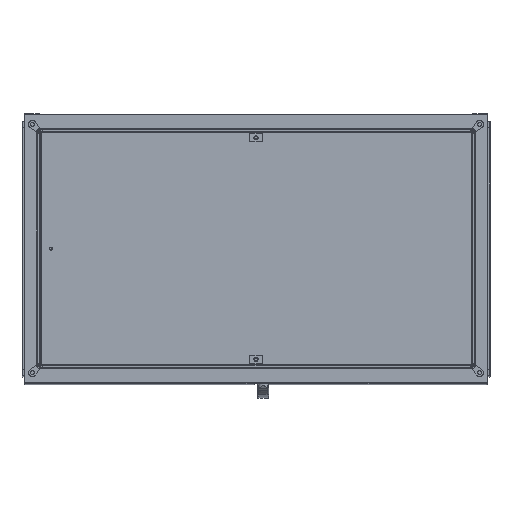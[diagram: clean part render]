
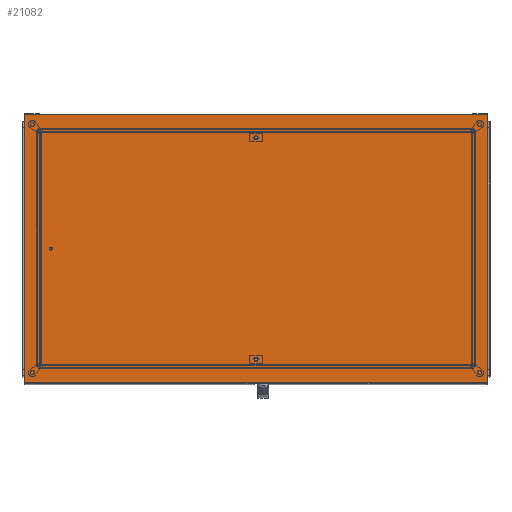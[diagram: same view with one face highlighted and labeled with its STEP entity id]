
A CAD part, top view. The second image highlights one B-rep face of the part: STEP entity #21082.
In plain terms, the highlighted planar face has unit normal (0, 0, 1) as drawn and (0, -1, 0) by its records, which use the part's own axes.
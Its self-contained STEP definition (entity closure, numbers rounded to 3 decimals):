
#1380=CIRCLE('',#23009,6.318);
#1381=CIRCLE('',#23010,6.318);
#6064=ORIENTED_EDGE('',*,*,#9984,.F.);
#6065=ORIENTED_EDGE('',*,*,#9997,.F.);
#6066=ORIENTED_EDGE('',*,*,#9943,.F.);
#6067=ORIENTED_EDGE('',*,*,#9990,.F.);
#6068=ORIENTED_EDGE('',*,*,#10004,.F.);
#6069=ORIENTED_EDGE('',*,*,#10005,.F.);
#9943=EDGE_CURVE('',#12249,#12250,#14295,.T.);
#9984=EDGE_CURVE('',#12284,#12285,#14325,.T.);
#9990=EDGE_CURVE('',#12285,#12249,#14330,.T.);
#9997=EDGE_CURVE('',#12250,#12284,#14337,.T.);
#10004=EDGE_CURVE('',#12298,#12298,#1380,.T.);
#10005=EDGE_CURVE('',#12299,#12299,#1381,.T.);
#12249=VERTEX_POINT('',#34737);
#12250=VERTEX_POINT('',#34739);
#12284=VERTEX_POINT('',#34817);
#12285=VERTEX_POINT('',#34819);
#12298=VERTEX_POINT('',#34855);
#12299=VERTEX_POINT('',#34857);
#14295=LINE('',#34738,#16364);
#14325=LINE('',#34818,#16394);
#14330=LINE('',#34830,#16399);
#14337=LINE('',#34842,#16406);
#16364=VECTOR('',#27993,1000.);
#16394=VECTOR('',#28053,1000.);
#16399=VECTOR('',#28062,1000.);
#16406=VECTOR('',#28071,1000.);
#17869=EDGE_LOOP('',(#6064,#6065,#6066,#6067));
#17870=EDGE_LOOP('',(#6068));
#17871=EDGE_LOOP('',(#6069));
#19172=FACE_BOUND('',#17869,.T.);
#19173=FACE_BOUND('',#17870,.T.);
#19174=FACE_BOUND('',#17871,.T.);
#20042=PLANE('',#23008);
#21082=ADVANCED_FACE('',(#19172,#19173,#19174),#20042,.F.);
#23008=AXIS2_PLACEMENT_3D('',#34853,#28078,#28079);
#23009=AXIS2_PLACEMENT_3D('',#34854,#28080,#28081);
#23010=AXIS2_PLACEMENT_3D('',#34856,#28082,#28083);
#27993=DIRECTION('',(1.,0.,0.));
#28053=DIRECTION('',(-1.,0.,0.));
#28062=DIRECTION('',(0.,0.,1.));
#28071=DIRECTION('',(0.,0.,-1.));
#28078=DIRECTION('',(0.,1.,0.));
#28079=DIRECTION('',(0.,0.,1.));
#28080=DIRECTION('',(0.,-1.,0.));
#28081=DIRECTION('',(0.,0.,-1.));
#28082=DIRECTION('',(0.,-1.,0.));
#28083=DIRECTION('',(0.,0.,-1.));
#34737=CARTESIAN_POINT('',(-699.5,0.,405.5));
#34738=CARTESIAN_POINT('',(-699.5,0.,405.5));
#34739=CARTESIAN_POINT('',(699.5,0.,405.5));
#34817=CARTESIAN_POINT('',(699.5,0.,-405.5));
#34818=CARTESIAN_POINT('',(699.5,0.,-405.5));
#34819=CARTESIAN_POINT('',(-699.5,0.,-405.5));
#34830=CARTESIAN_POINT('',(-699.5,0.,-405.5));
#34842=CARTESIAN_POINT('',(699.5,0.,405.5));
#34853=CARTESIAN_POINT('',(0.,0.,0.));
#34854=CARTESIAN_POINT('',(0.,0.,334.));
#34855=CARTESIAN_POINT('',(0.,0.,327.682));
#34856=CARTESIAN_POINT('',(0.,0.,-334.));
#34857=CARTESIAN_POINT('',(0.,0.,-340.318));
